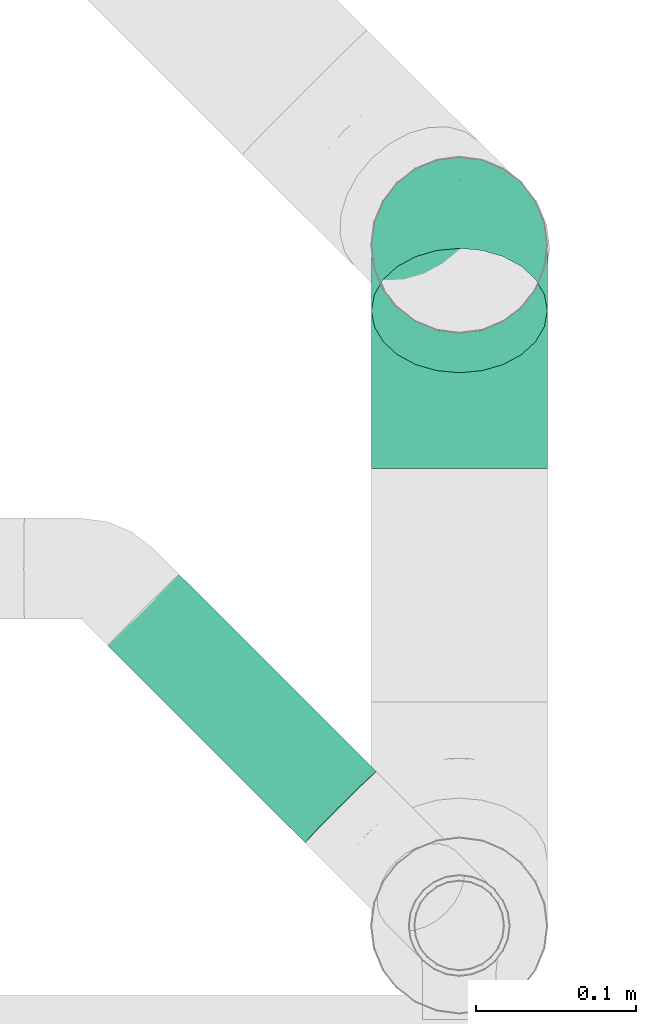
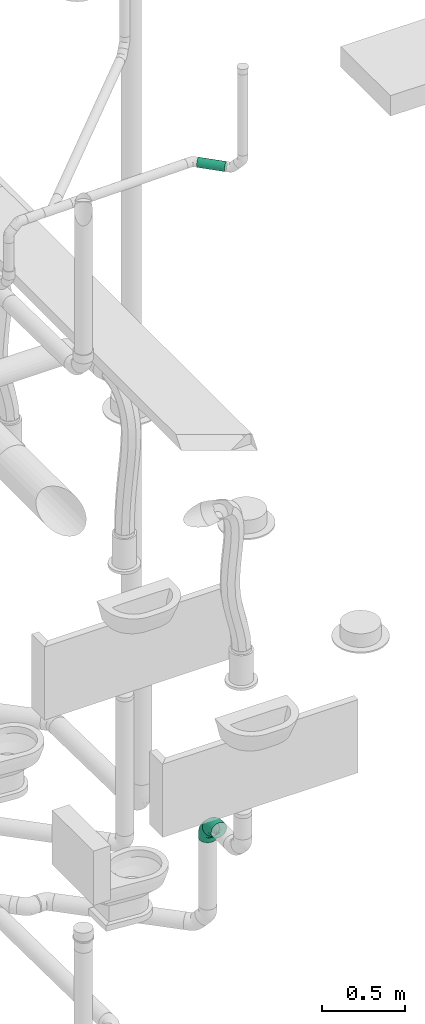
# One storey, part 134 of 374: 2 flow fittings, 1 flow segment.
"""IFC2X3 building model written with IfcOpenShell, lengths in metres."""

from ifc_helpers import new_model, si_unit, direction, origin, place, context, subcontext, project, spatial, open_shell, surface_model, source, transform, mapped, element, save


model = new_model("IFC2X3")

# Units and contexts
model_context = context("Model", 3, precision=1e-05, world=origin(), true_north=direction((-0.4480736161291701, 0.8939966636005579)))
body_context = subcontext(model_context, "Body", "Model", "MODEL_VIEW")
ifc_project = project(units=[si_unit("LENGTHUNIT", "METRE"), si_unit("AREAUNIT", "SQUARE_METRE"), si_unit("VOLUMEUNIT", "CUBIC_METRE"), si_unit("PLANEANGLEUNIT", "RADIAN"), si_unit("THERMODYNAMICTEMPERATUREUNIT", "KELVIN"), si_unit("MASSUNIT", "GRAM", prefix="KILO"), si_unit("TIMEUNIT", "SECOND")], contexts=[model_context])

# Site, building, storey
site_placement = place(None, origin())
site = spatial("IfcSite", under=ifc_project, at=site_placement, Name="Site 1", CompositionType="ELEMENT")
building_placement = place(site_placement, origin())
building = spatial("IfcBuilding", under=site, at=building_placement, Name="Undefined", CompositionType="ELEMENT")
storey_placement = place(building_placement, origin())
storey = spatial("IfcBuildingStorey", under=building, at=storey_placement, Name="Rez de chauss\x8ee", CompositionType="ELEMENT", Elevation=0.0)

# Flow fittings
shared_shape_1 = source(origin(), body_context, "Body", "SurfaceModel", [
    surface_model("IfcFaceBasedSurfaceModel", [(0.0, 0.014357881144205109, -3.552713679e-15), (0.0, 0.0, 0.0), (0.03509999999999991, 1.776356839e-15, -1.776356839e-15), (0.03509999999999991, 0.014357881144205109, 0.0), (0.0, -0.01386864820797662, -0.0037160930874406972), (0.035100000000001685, -0.01386864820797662, -0.003716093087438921), (0.0, -0.026302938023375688, -0.010895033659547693), (0.03509999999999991, -0.026302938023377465, -0.010895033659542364), (0.0, -0.03645549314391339, -0.021047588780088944), (0.035100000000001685, -0.03645549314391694, -0.021047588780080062), (0.0, -0.04363443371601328, -0.033481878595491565), (0.035100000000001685, -0.043634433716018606, -0.03348187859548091), (0.0, -0.04735052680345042, -0.04735052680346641), (0.03510000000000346, -0.04735052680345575, -0.04735052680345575), (0.0, -0.04735052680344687, -0.06170840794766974), (0.035100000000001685, -0.047350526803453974, -0.061708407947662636), (0.0, -0.04363443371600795, -0.07557705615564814), (0.035100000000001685, -0.04363443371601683, -0.07557705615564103), (0.0, -0.03645549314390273, -0.08801134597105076), (0.035100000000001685, -0.03645549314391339, -0.08801134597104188), (0.0, -0.026302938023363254, -0.0981639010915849), (0.03510000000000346, -0.026302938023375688, -0.09816390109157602), (0.0, -0.013868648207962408, -0.1053428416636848), (0.03510000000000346, -0.013868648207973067, -0.10534284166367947), (0.0, 1.5987211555e-14, -0.10905893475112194), (0.03510000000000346, 5.329070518e-15, -0.10905893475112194), (0.0, 0.014357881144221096, -0.10905893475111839), (0.035100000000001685, 0.014357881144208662, -0.10905893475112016), (0.0, 0.028226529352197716, -0.10534284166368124), (0.03510000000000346, 0.02822652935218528, -0.10534284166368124), (0.0, 0.040660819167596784, -0.0981639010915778), (0.03510000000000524, 0.040660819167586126, -0.09816390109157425), (0.0, 0.05081337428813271, -0.08801134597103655), (0.035100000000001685, 0.050813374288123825, -0.08801134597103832), (0.0, 0.05799231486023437, -0.07557705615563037), (0.035100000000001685, 0.05799231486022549, -0.07557705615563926), (0.0, 0.06170840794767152, -0.06170840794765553), (0.035100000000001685, 0.06170840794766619, -0.06170840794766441), (0.0, 0.061708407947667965, -0.0473505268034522), (0.035100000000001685, 0.061708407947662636, -0.0473505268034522), (0.0, 0.05799231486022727, -0.033481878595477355), (0.03510000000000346, 0.057992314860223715, -0.033481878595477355), (0.0, 0.050813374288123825, -0.021047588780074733), (0.035100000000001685, 0.05081337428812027, -0.021047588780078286), (0.0, 0.04066081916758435, -0.010895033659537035), (0.035100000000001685, 0.040660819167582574, -0.010895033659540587), (0.0, 0.028226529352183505, -0.0037160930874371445), (0.035100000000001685, 0.028226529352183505, -0.003716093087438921), (0.06308504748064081, -0.04369774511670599, -0.06218930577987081), (0.06357009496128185, -0.04363443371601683, -0.04783975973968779), (0.08916296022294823, -0.03298833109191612, -0.0635992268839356), (0.09010000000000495, -0.032739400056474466, -0.04927411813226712), (0.11155657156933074, -0.015952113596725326, -0.06584208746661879), (0.11288174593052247, -0.015407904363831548, -0.051555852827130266), (0.061662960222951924, -0.040167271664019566, -0.07603351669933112), (0.08641569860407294, -0.030002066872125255, -0.07737179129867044), (0.10767135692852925, -0.013831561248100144, -0.07950067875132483), (0.05940074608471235, -0.03328360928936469, -0.08842893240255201), (0.08204543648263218, -0.023984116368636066, -0.0896532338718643), (0.10149087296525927, -0.009190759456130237, -0.09160081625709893), (0.05645257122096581, -0.02351586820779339, -0.09853082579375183), (0.07635000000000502, -0.015344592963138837, -0.09960659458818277), (0.09343630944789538, -0.0023459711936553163, -0.10131789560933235), (0.053019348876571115, -0.011529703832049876, -0.1056507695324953), (0.06971752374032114, -0.004672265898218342, -0.10655356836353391), (0.08405657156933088, 0.006236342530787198, -0.10798971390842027), (0.049335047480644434, 0.0018580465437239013, -0.10930355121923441), (0.06260000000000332, 0.007305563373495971, -0.1100207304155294), (0.07399087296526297, 0.015971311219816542, -0.11116159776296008), (0.0456507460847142, 0.015735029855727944, -0.1092402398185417), (0.05548247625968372, 0.01977262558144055, -0.10977179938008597), (0.0639251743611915, 0.0261955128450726, -0.11061738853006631), (0.042217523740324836, 0.029155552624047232, -0.10546514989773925), (0.04885000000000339, 0.03187931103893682, -0.10582373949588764), (0.05454543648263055, 0.03621218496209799, -0.10639417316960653), (0.03926934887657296, 0.04120502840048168, -0.09823554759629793), (0.043154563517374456, 0.04280056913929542, -0.09844560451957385), (0.046490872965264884, 0.045338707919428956, -0.09877975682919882), (0.03700713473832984, 0.05106230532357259, -0.08804411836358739), (0.03878430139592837, 0.05179213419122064, -0.08814020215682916), (0.04031038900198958, 0.052953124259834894, -0.08829304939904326), (0.03558504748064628, 0.058055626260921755, -0.07558539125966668), (0.03603703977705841, 0.0582412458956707, -0.07560982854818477), (0.03642517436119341, 0.05853652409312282, -0.07564870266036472), (0.035585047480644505, 0.0617717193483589, -0.047358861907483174), (0.036037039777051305, 0.0619573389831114, -0.04738329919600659), (0.03642517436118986, 0.06225261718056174, -0.04742217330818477), (0.037007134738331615, 0.05824124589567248, -0.03351465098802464), (0.03878430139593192, 0.05897107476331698, -0.03361073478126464), (0.04031038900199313, 0.06013206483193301, -0.03376358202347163), (0.039269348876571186, 0.05135758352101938, -0.02111923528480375), (0.04315456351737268, 0.05295312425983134, -0.021329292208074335), (0.046490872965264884, 0.05549126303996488, -0.021663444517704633), (0.04221752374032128, 0.041589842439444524, -0.01101734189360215), (0.04884999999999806, 0.044313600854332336, -0.011375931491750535), (0.054545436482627, 0.04864647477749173, -0.01194636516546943), (0.04565074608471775, 0.029603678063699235, -0.003897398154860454), (0.05548247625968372, 0.03364127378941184, -0.004428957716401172), (0.0639251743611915, 0.040064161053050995, -0.005274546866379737), (0.04933504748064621, 0.016215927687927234, -0.0002446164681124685), (0.06260000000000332, 0.021663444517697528, -0.000961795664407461), (0.07399087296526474, 0.030329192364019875, -0.002102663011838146), (0.05301934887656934, 0.0023389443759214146, -0.0003079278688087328), (0.06971752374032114, 0.009196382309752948, -0.0012107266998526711), (0.08405657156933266, 0.020104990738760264, -0.0026468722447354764), (0.05645257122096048, -0.011081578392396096, -0.004083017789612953), (0.0763499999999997, -0.002910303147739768, -0.0051587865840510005), (0.09343630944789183, 0.010088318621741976, -0.006870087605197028), (0.059400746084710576, -0.023131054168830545, -0.011312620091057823), (0.08204543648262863, -0.01383156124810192, -0.012536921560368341), (0.1014908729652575, 0.0009617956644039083, -0.01448450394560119), (0.0616629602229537, -0.032988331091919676, -0.021504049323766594), (0.0864156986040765, -0.022823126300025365, -0.022842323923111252), (0.10767135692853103, -0.006652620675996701, -0.024971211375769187), (0.06308504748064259, -0.03998165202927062, -0.033962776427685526), (0.08916296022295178, -0.02927223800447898, -0.035372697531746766), (0.1115565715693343, -0.012236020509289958, -0.03761555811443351), (0.1363760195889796, 0.008655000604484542, -0.06908167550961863), (0.13770119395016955, 0.00919920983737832, -0.05479544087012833), (0.13249080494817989, 0.0107755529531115, -0.08274026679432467), (0.12631032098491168, 0.01541635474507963, -0.09484040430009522), (0.11825575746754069, 0.02226114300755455, -0.10455748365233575), (0.1088760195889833, 0.03084345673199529, -0.11122930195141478), (0.09881032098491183, 0.04057842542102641, -0.11440118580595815), (0.08874462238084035, 0.05080262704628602, -0.11385697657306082), (0.07936488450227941, 0.06081929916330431, -0.10963376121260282), (0.07131032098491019, 0.0699458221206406, -0.10201934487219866), (0.06512983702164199, 0.07756023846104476, -0.09153263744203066), (0.06124462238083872, 0.08314363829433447, -0.07888829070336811), (0.059919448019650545, 0.08631552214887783, -0.0649479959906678), (0.06124462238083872, 0.08685973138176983, -0.05066176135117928), (0.06512983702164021, 0.08473917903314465, -0.03700317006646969), (0.07131032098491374, 0.08009837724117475, -0.024903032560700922), (0.07936488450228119, 0.07325358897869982, -0.015185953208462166), (0.0887446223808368, 0.06467127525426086, -0.008514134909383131), (0.09881032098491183, 0.05493630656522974, -0.005342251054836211), (0.10887601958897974, 0.04471210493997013, -0.0058864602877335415), (0.11825575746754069, 0.03469543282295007, -0.010109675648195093), (0.1263103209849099, 0.02556890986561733, -0.017724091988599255), (0.13249080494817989, 0.017954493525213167, -0.0282107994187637), (0.13637601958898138, 0.012371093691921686, -0.04085514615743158)], [open_shell([[[0, 1, 2, 3]], [[1, 4, 5, 2]], [[4, 6, 7, 5]], [[6, 8, 9, 7]], [[8, 10, 11, 9]], [[10, 12, 13, 11]], [[12, 14, 15, 13]], [[14, 16, 17, 15]], [[16, 18, 19, 17]], [[18, 20, 21, 19]], [[20, 22, 23, 21]], [[22, 24, 25, 23]], [[24, 26, 27, 25]], [[26, 28, 29, 27]], [[28, 30, 31, 29]], [[30, 32, 33, 31]], [[32, 34, 35, 33]], [[34, 36, 37, 35]], [[36, 38, 39, 37]], [[38, 40, 41, 39]], [[40, 42, 43, 41]], [[42, 44, 45, 43]], [[44, 46, 47, 45]], [[46, 0, 3, 47]], [[13, 15, 48, 49]], [[49, 48, 50, 51]], [[51, 50, 52, 53]], [[15, 17, 54, 48]], [[48, 54, 55, 50]], [[50, 55, 56, 52]], [[17, 19, 57, 54]], [[54, 57, 58, 55]], [[55, 58, 59, 56]], [[19, 21, 60, 57]], [[57, 60, 61, 58]], [[58, 61, 62, 59]], [[21, 23, 63, 60]], [[60, 63, 64, 61]], [[61, 64, 65, 62]], [[23, 25, 66, 63]], [[63, 66, 67, 64]], [[64, 67, 68, 65]], [[25, 27, 69, 66]], [[66, 69, 70, 67]], [[67, 70, 71, 68]], [[27, 29, 72, 69]], [[69, 72, 73, 70]], [[70, 73, 74, 71]], [[29, 31, 75, 72]], [[72, 75, 76, 73]], [[73, 76, 77, 74]], [[31, 33, 78, 75]], [[75, 78, 79, 76]], [[76, 79, 80, 77]], [[33, 35, 81, 78]], [[78, 81, 82, 79]], [[79, 82, 83, 80]], [[35, 37, 81]], [[81, 37, 82]], [[82, 37, 83]], [[37, 39, 84]], [[37, 84, 85]], [[37, 85, 86]], [[39, 41, 87, 84]], [[84, 87, 88, 85]], [[85, 88, 89, 86]], [[41, 43, 90, 87]], [[87, 90, 91, 88]], [[88, 91, 92, 89]], [[43, 45, 93, 90]], [[90, 93, 94, 91]], [[91, 94, 95, 92]], [[45, 47, 96, 93]], [[93, 96, 97, 94]], [[94, 97, 98, 95]], [[47, 3, 99, 96]], [[96, 99, 100, 97]], [[97, 100, 101, 98]], [[3, 2, 102, 99]], [[99, 102, 103, 100]], [[100, 103, 104, 101]], [[2, 5, 105, 102]], [[102, 105, 106, 103]], [[103, 106, 107, 104]], [[5, 7, 108, 105]], [[105, 108, 109, 106]], [[106, 109, 110, 107]], [[7, 9, 111, 108]], [[108, 111, 112, 109]], [[109, 112, 113, 110]], [[9, 11, 114, 111]], [[111, 114, 115, 112]], [[112, 115, 116, 113]], [[11, 13, 49, 114]], [[114, 49, 51, 115]], [[115, 51, 53, 116]], [[53, 52, 117, 118]], [[52, 56, 119, 117]], [[56, 59, 120, 119]], [[59, 62, 121, 120]], [[62, 65, 122, 121]], [[65, 68, 123, 122]], [[68, 71, 124, 123]], [[71, 74, 125, 124]], [[74, 77, 126, 125]], [[77, 80, 127, 126]], [[80, 83, 128, 127]], [[83, 37, 129, 128]], [[37, 86, 130, 129]], [[86, 89, 131, 130]], [[89, 92, 132, 131]], [[92, 95, 133, 132]], [[95, 98, 134, 133]], [[98, 101, 135, 134]], [[101, 104, 136, 135]], [[104, 107, 137, 136]], [[107, 110, 138, 137]], [[110, 113, 139, 138]], [[113, 116, 140, 139]], [[116, 53, 118, 140]]])]),
])
flow_fitting_1_placement = place(storey_placement, origin())
element("IfcFlowFitting", 1, at=flow_fitting_1_placement, inside=storey, Name="PE-HD coude 45°", ObjectType="PE-HD coude 45°", context=body_context, shape_type="MappedRepresentation", body=[
    mapped(shared_shape_1, transform((58.521881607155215, 12.272548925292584, -0.37618748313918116), x_axis=(0.0, 1.0, 0.0), y_axis=(-0.13052619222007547, 0.0, -0.9914448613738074), z_axis=(-0.9914448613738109, 0.0, 0.1305261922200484))),
])
shared_shape_2 = source(origin(), body_context, "Body", "SurfaceModel", [
    surface_model("IfcFaceBasedSurfaceModel", [(0.03509999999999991, 1.776356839e-15, -1.776356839e-15), (0.03509999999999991, 0.014357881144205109, 0.0), (0.0, 0.014357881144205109, -3.552713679e-15), (0.0, 0.0, 0.0), (0.035100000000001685, 0.028226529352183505, -0.003716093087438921), (0.0, 0.028226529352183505, -0.0037160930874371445), (0.035100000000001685, 0.040660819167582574, -0.010895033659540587), (0.0, 0.04066081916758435, -0.010895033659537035), (0.035100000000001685, 0.05081337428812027, -0.021047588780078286), (0.0, 0.050813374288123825, -0.021047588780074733), (0.03510000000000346, 0.057992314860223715, -0.033481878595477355), (0.0, 0.05799231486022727, -0.033481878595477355), (0.035100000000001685, 0.061708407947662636, -0.0473505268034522), (0.0, 0.061708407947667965, -0.0473505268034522), (0.035100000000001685, 0.06170840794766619, -0.06170840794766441), (0.0, 0.06170840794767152, -0.06170840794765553), (0.035100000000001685, 0.05799231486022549, -0.07557705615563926), (0.0, 0.05799231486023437, -0.07557705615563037), (0.035100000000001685, 0.050813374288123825, -0.08801134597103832), (0.0, 0.05081337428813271, -0.08801134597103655), (0.03510000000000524, 0.040660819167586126, -0.09816390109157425), (0.0, 0.040660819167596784, -0.0981639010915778), (0.03510000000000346, 0.02822652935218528, -0.10534284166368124), (0.0, 0.028226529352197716, -0.10534284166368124), (0.035100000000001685, 0.014357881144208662, -0.10905893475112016), (0.0, 0.014357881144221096, -0.10905893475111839), (0.03510000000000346, 5.329070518e-15, -0.10905893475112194), (0.0, 1.5987211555e-14, -0.10905893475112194), (0.03510000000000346, -0.013868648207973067, -0.10534284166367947), (0.0, -0.013868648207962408, -0.1053428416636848), (0.03510000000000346, -0.026302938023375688, -0.09816390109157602), (0.0, -0.026302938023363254, -0.0981639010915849), (0.035100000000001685, -0.03645549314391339, -0.08801134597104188), (0.0, -0.03645549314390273, -0.08801134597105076), (0.035100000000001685, -0.04363443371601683, -0.07557705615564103), (0.0, -0.04363443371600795, -0.07557705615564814), (0.035100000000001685, -0.047350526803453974, -0.061708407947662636), (0.0, -0.04735052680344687, -0.06170840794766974), (0.03510000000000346, -0.04735052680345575, -0.04735052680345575), (0.0, -0.04735052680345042, -0.04735052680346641), (0.035100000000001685, -0.043634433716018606, -0.03348187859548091), (0.0, -0.04363443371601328, -0.033481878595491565), (0.035100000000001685, -0.03645549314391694, -0.021047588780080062), (0.0, -0.03645549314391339, -0.021047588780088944), (0.03509999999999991, -0.026302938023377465, -0.010895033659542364), (0.0, -0.026302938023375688, -0.010895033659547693), (0.035100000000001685, -0.01386864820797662, -0.003716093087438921), (0.0, -0.01386864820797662, -0.0037160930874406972), (-0.02798504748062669, 0.05805562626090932, -0.062189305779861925), (-0.02847009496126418, 0.05799231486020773, -0.047839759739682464), (-0.054062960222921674, 0.04734621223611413, -0.06359922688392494), (-0.0549999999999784, 0.0470972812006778, -0.04927411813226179), (-0.07645657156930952, 0.030309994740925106, -0.06584208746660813), (-0.07778174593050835, 0.029765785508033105, -0.05155585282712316), (-0.02656296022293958, 0.05452515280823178, -0.07603351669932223), (-0.05131569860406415, 0.04435994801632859, -0.07737179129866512), (-0.07257135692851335, 0.028189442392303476, -0.07950067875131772), (-0.024300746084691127, 0.047641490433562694, -0.08842893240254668), (-0.046945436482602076, 0.03834199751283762, -0.0896532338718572), (-0.06639087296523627, 0.0235486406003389, -0.09160081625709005), (-0.021352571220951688, 0.03787374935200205, -0.0985308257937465), (-0.0412499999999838, 0.02970247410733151, -0.09960659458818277), (-0.05833630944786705, 0.0167038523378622, -0.1013178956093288), (-0.017919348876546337, 0.02588758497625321, -0.1056507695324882), (-0.03461752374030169, 0.019030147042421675, -0.10655356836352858), (-0.04895657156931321, 0.00812153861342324, -0.10798971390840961), (-0.014235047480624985, 0.012499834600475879, -0.10930355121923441), (-0.027499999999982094, 0.007052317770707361, -0.11002073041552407), (-0.038890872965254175, -0.00161343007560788, -0.11116159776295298), (-0.010550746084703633, -0.0013771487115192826, -0.10924023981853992), (-0.020382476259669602, -0.005414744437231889, -0.10977179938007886), (-0.028825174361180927, -0.011837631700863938, -0.1106173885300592), (-0.0071175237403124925, -0.014797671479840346, -0.10546514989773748), (-0.013749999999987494, -0.017521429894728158, -0.10582373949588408), (-0.019445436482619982, -0.02185430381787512, -0.10639417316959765), (-0.004169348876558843, -0.026847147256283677, -0.09823554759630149), (-0.008054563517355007, -0.028442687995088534, -0.0984456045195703), (-0.011390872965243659, -0.0309808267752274, -0.09877975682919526), (-0.0019071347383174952, -0.03670442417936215, -0.08804411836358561), (-0.003684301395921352, -0.0374342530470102, -0.08814020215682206), (-0.005210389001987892, -0.038595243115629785, -0.08829304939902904), (-0.00048504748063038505, -0.043697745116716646, -0.07558539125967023), (-0.0009370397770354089, -0.04388336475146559, -0.07560982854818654), (-0.0013251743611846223, -0.04417864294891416, -0.07564870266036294), (-0.00048504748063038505, -0.047413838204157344, -0.0473588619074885), (-0.0009370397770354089, -0.04759945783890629, -0.04738329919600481), (-0.0013251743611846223, -0.04789473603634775, -0.047422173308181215), (-0.0019071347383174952, -0.0438833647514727, -0.03351465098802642), (-0.003684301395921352, -0.044613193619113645, -0.03361073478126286), (-0.005210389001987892, -0.04577418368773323, -0.03376358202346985), (-0.004169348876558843, -0.03699970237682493, -0.02111923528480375), (-0.008054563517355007, -0.03859524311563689, -0.02132929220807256), (-0.011390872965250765, -0.041133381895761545, -0.021663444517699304), (-0.007117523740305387, -0.027231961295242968, -0.011017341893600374), (-0.013749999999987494, -0.02995571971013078, -0.011375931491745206), (-0.019445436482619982, -0.03428859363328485, -0.011946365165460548), (-0.010550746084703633, -0.015245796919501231, -0.003897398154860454), (-0.020382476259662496, -0.019283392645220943, -0.004428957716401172), (-0.028825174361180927, -0.02570627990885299, -0.005274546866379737), (-0.014235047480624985, -0.0018580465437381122, -0.0002446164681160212), (-0.0274999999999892, -0.007305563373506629, -0.0009617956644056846), (-0.03889087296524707, -0.015971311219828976, -0.00210266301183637), (-0.017919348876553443, 0.01201893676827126, -0.0003079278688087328), (-0.03461752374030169, 0.005161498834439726, -0.0012107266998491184), (-0.04895657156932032, -0.005747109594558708, -0.0026468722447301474), (-0.021352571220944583, 0.02543945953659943, -0.0040830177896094), (-0.0412499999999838, 0.01726818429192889, -0.0051587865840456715), (-0.05833630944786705, 0.004269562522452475, -0.006870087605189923), (-0.024300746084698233, 0.03748893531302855, -0.011312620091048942), (-0.04694543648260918, 0.028189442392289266, -0.01253692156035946), (-0.06639087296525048, 0.013396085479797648, -0.014484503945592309), (-0.026562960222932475, 0.04734621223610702, -0.021504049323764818), (-0.05131569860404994, 0.03718100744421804, -0.022842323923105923), (-0.07257135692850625, 0.02101050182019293, -0.024971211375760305), (-0.02798504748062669, 0.054339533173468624, -0.03396277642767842), (-0.054062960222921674, 0.043630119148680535, -0.03537269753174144), (-0.07645657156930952, 0.02659390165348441, -0.037615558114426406), (-0.1012760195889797, 0.005702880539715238, -0.06908167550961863), (-0.10260119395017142, 0.005158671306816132, -0.05479544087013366), (-0.09739080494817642, 0.003582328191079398, -0.08274026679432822), (-0.09121032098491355, -0.0010584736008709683, -0.09484040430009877), (-0.08315575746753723, -0.007903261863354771, -0.10455748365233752), (-0.07377601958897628, -0.016485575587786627, -0.11122930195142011), (-0.06371032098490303, -0.026220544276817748, -0.11440118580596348), (-0.05364462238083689, -0.03644474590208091, -0.1138569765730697), (-0.04426488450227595, -0.046461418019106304, -0.10963376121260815), (-0.03621032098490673, -0.05558794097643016, -0.10201934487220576), (-0.030029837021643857, -0.06320235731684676, -0.09153263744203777), (-0.026144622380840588, -0.06878575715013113, -0.07888829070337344), (-0.02481944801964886, -0.07195764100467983, -0.06494799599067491), (-0.026144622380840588, -0.07250185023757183, -0.05066176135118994), (-0.030029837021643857, -0.0703812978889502, -0.037003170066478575), (-0.036210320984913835, -0.06574049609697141, -0.024903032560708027), (-0.04426488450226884, -0.058895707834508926, -0.015185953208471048), (-0.05364462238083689, -0.05031339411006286, -0.00851413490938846), (-0.06371032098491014, -0.04057842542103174, -0.005342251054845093), (-0.07377601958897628, -0.03035422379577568, -0.0058864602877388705), (-0.08315575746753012, -0.020337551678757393, -0.010109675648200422), (-0.09121032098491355, -0.01121102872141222, -0.017724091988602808), (-0.09739080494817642, -0.0035966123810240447, -0.028210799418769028), (-0.1012760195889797, 0.001986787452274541, -0.04085514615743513)], [open_shell([[[0, 1, 2, 3]], [[1, 4, 5, 2]], [[4, 6, 7, 5]], [[6, 8, 9, 7]], [[8, 10, 11, 9]], [[10, 12, 13, 11]], [[12, 14, 15, 13]], [[14, 16, 17, 15]], [[16, 18, 19, 17]], [[18, 20, 21, 19]], [[20, 22, 23, 21]], [[22, 24, 25, 23]], [[24, 26, 27, 25]], [[26, 28, 29, 27]], [[28, 30, 31, 29]], [[30, 32, 33, 31]], [[32, 34, 35, 33]], [[34, 36, 37, 35]], [[36, 38, 39, 37]], [[38, 40, 41, 39]], [[40, 42, 43, 41]], [[42, 44, 45, 43]], [[44, 46, 47, 45]], [[46, 0, 3, 47]], [[13, 15, 48, 49]], [[49, 48, 50, 51]], [[51, 50, 52, 53]], [[15, 17, 54, 48]], [[48, 54, 55, 50]], [[50, 55, 56, 52]], [[17, 19, 57, 54]], [[54, 57, 58, 55]], [[55, 58, 59, 56]], [[19, 21, 60, 57]], [[57, 60, 61, 58]], [[58, 61, 62, 59]], [[21, 23, 63, 60]], [[60, 63, 64, 61]], [[61, 64, 65, 62]], [[23, 25, 66, 63]], [[63, 66, 67, 64]], [[64, 67, 68, 65]], [[25, 27, 69, 66]], [[66, 69, 70, 67]], [[67, 70, 71, 68]], [[27, 29, 72, 69]], [[69, 72, 73, 70]], [[70, 73, 74, 71]], [[29, 31, 75, 72]], [[72, 75, 76, 73]], [[73, 76, 77, 74]], [[31, 33, 78, 75]], [[75, 78, 79, 76]], [[76, 79, 80, 77]], [[33, 35, 81, 78]], [[78, 81, 82, 79]], [[79, 82, 83, 80]], [[35, 37, 81]], [[81, 37, 82]], [[82, 37, 83]], [[37, 39, 84]], [[37, 84, 85]], [[37, 85, 86]], [[39, 41, 87, 84]], [[84, 87, 88, 85]], [[85, 88, 89, 86]], [[41, 43, 90, 87]], [[87, 90, 91, 88]], [[88, 91, 92, 89]], [[43, 45, 93, 90]], [[90, 93, 94, 91]], [[91, 94, 95, 92]], [[45, 47, 96, 93]], [[93, 96, 97, 94]], [[94, 97, 98, 95]], [[47, 3, 99, 96]], [[96, 99, 100, 97]], [[97, 100, 101, 98]], [[3, 2, 102, 99]], [[99, 102, 103, 100]], [[100, 103, 104, 101]], [[2, 5, 105, 102]], [[102, 105, 106, 103]], [[103, 106, 107, 104]], [[5, 7, 108, 105]], [[105, 108, 109, 106]], [[106, 109, 110, 107]], [[7, 9, 111, 108]], [[108, 111, 112, 109]], [[109, 112, 113, 110]], [[9, 11, 114, 111]], [[111, 114, 115, 112]], [[112, 115, 116, 113]], [[11, 13, 49, 114]], [[114, 49, 51, 115]], [[115, 51, 53, 116]], [[53, 52, 117, 118]], [[52, 56, 119, 117]], [[56, 59, 120, 119]], [[59, 62, 121, 120]], [[62, 65, 122, 121]], [[65, 68, 123, 122]], [[68, 71, 124, 123]], [[71, 74, 125, 124]], [[74, 77, 126, 125]], [[77, 80, 127, 126]], [[80, 83, 128, 127]], [[83, 37, 129, 128]], [[37, 86, 130, 129]], [[86, 89, 131, 130]], [[89, 92, 132, 131]], [[92, 95, 133, 132]], [[95, 98, 134, 133]], [[98, 101, 135, 134]], [[101, 104, 136, 135]], [[104, 107, 137, 136]], [[107, 110, 138, 137]], [[110, 113, 139, 138]], [[113, 116, 140, 139]], [[116, 53, 118, 140]]])]),
])
flow_fitting_2_placement = place(storey_placement, origin())
element("IfcFlowFitting", 2, at=flow_fitting_2_placement, inside=storey, Name="PE-HD coude 45°", ObjectType="PE-HD coude 45°", context=body_context, shape_type="MappedRepresentation", body=[
    mapped(shared_shape_2, transform((58.520007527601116, 12.39617869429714, -0.4561705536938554), x_axis=(-8.6595606e-17, -0.7071067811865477, 0.7071067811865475), y_axis=(0.13052619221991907, 0.7010573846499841, 0.7010573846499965), z_axis=(-0.991444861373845, 0.09229595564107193, 0.09229595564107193))),
])

# Flow segment
shared_shape_3 = source(origin(), body_context, "Body", "SurfaceModel", [
    surface_model("IfcFaceBasedSurfaceModel", [(0.00025837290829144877, 0.008219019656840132, -7.105427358e-15), (0.0, 0.0, 0.0), (0.17450075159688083, -8.8817842e-16, 0.0), (0.17475912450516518, 0.00821901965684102, 7.105427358e-15), (-0.00024076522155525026, -0.007938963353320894, -0.002127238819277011), (0.17425998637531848, -0.007938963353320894, -0.0021272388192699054), (-0.00044751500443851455, -0.01505684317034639, -0.006236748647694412), (0.17405323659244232, -0.01505684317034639, -0.006236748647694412), (-0.0006061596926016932, -0.020868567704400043, -0.012048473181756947), (0.17389459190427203, -0.020868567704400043, -0.012048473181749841), (-0.0007058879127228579, -0.024978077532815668, -0.019166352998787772), (0.17379486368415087, -0.024978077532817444, -0.019166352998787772), (-0.0007399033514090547, -0.027105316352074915, -0.027105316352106), (0.17376084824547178, -0.027105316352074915, -0.027105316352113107), (-0.0007058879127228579, -0.027105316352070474, -0.03532433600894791), (0.17379486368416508, -0.027105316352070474, -0.03532433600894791), (-0.0006061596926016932, -0.024978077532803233, -0.04326329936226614), (0.17389459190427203, -0.024978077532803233, -0.04326329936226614), (-0.00044751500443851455, -0.020868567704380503, -0.050381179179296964), (0.1740532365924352, -0.020868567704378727, -0.050381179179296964), (-0.00024076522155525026, -0.015056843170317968, -0.05619290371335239), (0.17425998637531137, -0.015056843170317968, -0.05619290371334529), (0.0, -0.007938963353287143, -0.06030241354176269), (0.17450075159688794, -0.007938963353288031, -0.060302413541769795), (0.00025837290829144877, 3.2862601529e-14, -0.06242965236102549), (0.17475912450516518, 3.3750779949e-14, -0.06242965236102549), (0.0005167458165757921, 0.008219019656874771, -0.062429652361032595), (0.1750174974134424, 0.008219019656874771, -0.062429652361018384), (0.0007575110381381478, 0.016157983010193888, -0.06030241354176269), (0.17525826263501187, 0.016157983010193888, -0.060302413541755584), (0.0009642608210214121, 0.023275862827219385, -0.05619290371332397), (0.17546501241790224, 0.023275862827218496, -0.05619290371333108), (0.0011229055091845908, 0.029087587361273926, -0.05038117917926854), (0.17562365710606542, 0.029087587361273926, -0.05038117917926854), (0.0012226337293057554, 0.03319709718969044, -0.04326329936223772), (0.17572338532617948, 0.03319709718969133, -0.04326329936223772), (0.0012566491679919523, 0.0353243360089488, -0.03532433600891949), (0.17575740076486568, 0.0353243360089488, -0.03532433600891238), (0.0012226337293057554, 0.035324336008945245, -0.027105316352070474), (0.17572338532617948, 0.03532433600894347, -0.027105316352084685), (0.0011229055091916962, 0.033197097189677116, -0.01916635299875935), (0.17562365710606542, 0.033197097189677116, -0.019166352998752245), (0.0009642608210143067, 0.02908758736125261, -0.012048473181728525), (0.17546501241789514, 0.02908758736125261, -0.01204847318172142), (0.0007575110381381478, 0.02327586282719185, -0.006236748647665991), (0.17525826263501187, 0.02327586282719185, -0.006236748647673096), (0.0005167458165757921, 0.016157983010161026, -0.0021272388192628), (0.17501749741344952, 0.016157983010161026, -0.0021272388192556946)], [open_shell([[[0, 1, 2, 3]], [[1, 4, 5, 2]], [[4, 6, 7, 5]], [[6, 8, 9, 7]], [[8, 10, 11, 9]], [[10, 12, 13, 11]], [[12, 14, 15, 13]], [[14, 16, 17, 15]], [[16, 18, 19, 17]], [[18, 20, 21, 19]], [[20, 22, 23, 21]], [[22, 24, 25, 23]], [[24, 26, 27, 25]], [[26, 28, 29, 27]], [[28, 30, 31, 29]], [[30, 32, 33, 31]], [[32, 34, 35, 33]], [[34, 36, 37, 35]], [[36, 38, 39, 37]], [[38, 40, 41, 39]], [[40, 42, 43, 41]], [[42, 44, 45, 43]], [[44, 46, 47, 45]], [[46, 0, 3, 47]]])]),
])
flow_segment_placement = place(storey_placement, origin())
element("IfcFlowSegment", 3, at=flow_segment_placement, inside=storey, Name="PE-HD tuyau", ObjectType="PE-HD tuyau", context=body_context, shape_type="MappedRepresentation", body=[
    mapped(shared_shape_3, transform((58.52284603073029, 12.082374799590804, 4.647935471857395), x_axis=(-0.7076322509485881, 0.7065804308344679, 0.0008319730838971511), y_axis=(0.05983903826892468, 0.05875479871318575, 0.9964773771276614), z_axis=(0.7040425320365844, 0.7051893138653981, -0.08385788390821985))),
])

save(model, "model.ifc")
